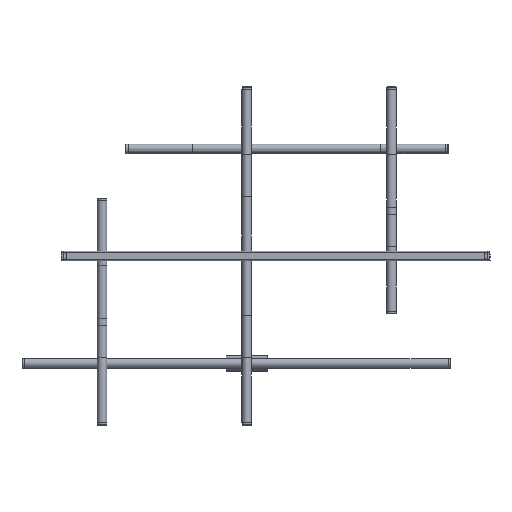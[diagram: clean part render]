
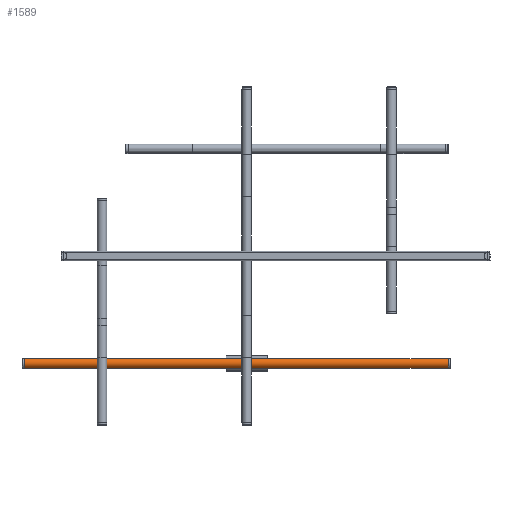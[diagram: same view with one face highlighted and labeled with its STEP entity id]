
A CAD part, top view. The second image highlights one B-rep face of the part: STEP entity #1589.
In plain terms, the highlighted free-form (B-spline) face has degree [1, 2] with [2, 5] control points.
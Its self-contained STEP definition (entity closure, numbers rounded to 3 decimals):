
#1589=ADVANCED_FACE('',(#3209),#23686,.T.);
#3209=FACE_OUTER_BOUND('',#4839,.T.);
#4839=EDGE_LOOP('',(#10895,#10896,#10897,#10898));
#10895=ORIENTED_EDGE('',*,*,#15528,.F.);
#10896=ORIENTED_EDGE('',*,*,#15527,.F.);
#10897=ORIENTED_EDGE('',*,*,#15526,.T.);
#10898=ORIENTED_EDGE('',*,*,#15501,.T.);
#15501=EDGE_CURVE('',#21766,#21767,#19794,.T.);
#15526=EDGE_CURVE('',#21784,#21766,#17948,.T.);
#15527=EDGE_CURVE('',#21784,#21785,#19807,.T.);
#15528=EDGE_CURVE('',#21785,#21767,#17949,.T.);
#17948=B_SPLINE_CURVE_WITH_KNOTS('',1,(#44535,#44536),.UNSPECIFIED.,.F.,
 .F.,(2,2),(-1023.816,0.),.UNSPECIFIED.);
#17949=B_SPLINE_CURVE_WITH_KNOTS('',1,(#44542,#44543),.UNSPECIFIED.,.F.,
 .F.,(2,2),(-1023.816,0.),.UNSPECIFIED.);
#19794=(
BOUNDED_CURVE()
B_SPLINE_CURVE(2,(#44464,#44465,#44466,#44467,#44468),.UNSPECIFIED.,.F.,
 .F.)
B_SPLINE_CURVE_WITH_KNOTS((3,2,3),(10.956,12.526,14.097),
 .UNSPECIFIED.)
CURVE()
GEOMETRIC_REPRESENTATION_ITEM()
RATIONAL_B_SPLINE_CURVE((1.,0.707,1.,0.707,1.))
REPRESENTATION_ITEM('')
);
#19807=(
BOUNDED_CURVE()
B_SPLINE_CURVE(2,(#44537,#44538,#44539,#44540,#44541),.UNSPECIFIED.,.F.,
 .F.)
B_SPLINE_CURVE_WITH_KNOTS((3,2,3),(10.956,12.526,14.097),
 .UNSPECIFIED.)
CURVE()
GEOMETRIC_REPRESENTATION_ITEM()
RATIONAL_B_SPLINE_CURVE((1.,0.707,1.,0.707,1.))
REPRESENTATION_ITEM('')
);
#21766=VERTEX_POINT('',#44413);
#21767=VERTEX_POINT('',#44414);
#21784=VERTEX_POINT('',#44431);
#21785=VERTEX_POINT('',#44432);
#23686=(
BOUNDED_SURFACE()
B_SPLINE_SURFACE(1,2,((#44347,#44348,#44349,#44350,#44351),(#44352,#44353,
#44354,#44355,#44356)),.UNSPECIFIED.,.F.,.F.,.F.)
B_SPLINE_SURFACE_WITH_KNOTS((2,2),(3,2,3),(0.,1023.816),(-14.097,
-12.526,-10.956),.UNSPECIFIED.)
GEOMETRIC_REPRESENTATION_ITEM()
RATIONAL_B_SPLINE_SURFACE(((1.,0.707,1.,0.707,1.),
(1.,0.707,1.,0.707,1.)))
REPRESENTATION_ITEM('')
SURFACE()
);
#44347=CARTESIAN_POINT('',(758.,-271.,-78.719));
#44348=CARTESIAN_POINT('',(758.,-271.,-67.219));
#44349=CARTESIAN_POINT('',(758.,-259.5,-67.219));
#44350=CARTESIAN_POINT('',(758.,-248.,-67.219));
#44351=CARTESIAN_POINT('',(758.,-248.,-78.719));
#44352=CARTESIAN_POINT('',(1781.816,-271.,-78.719));
#44353=CARTESIAN_POINT('',(1781.816,-271.,-67.219));
#44354=CARTESIAN_POINT('',(1781.816,-259.5,-67.219));
#44355=CARTESIAN_POINT('',(1781.816,-248.,-67.219));
#44356=CARTESIAN_POINT('',(1781.816,-248.,-78.719));
#44413=CARTESIAN_POINT('',(758.,-248.,-78.719));
#44414=CARTESIAN_POINT('',(758.,-271.,-78.719));
#44431=CARTESIAN_POINT('',(1781.816,-248.,-78.719));
#44432=CARTESIAN_POINT('',(1781.816,-271.,-78.719));
#44464=CARTESIAN_POINT('',(758.,-248.,-78.719));
#44465=CARTESIAN_POINT('',(758.,-248.,-67.219));
#44466=CARTESIAN_POINT('',(758.,-259.5,-67.219));
#44467=CARTESIAN_POINT('',(758.,-271.,-67.219));
#44468=CARTESIAN_POINT('',(758.,-271.,-78.719));
#44535=CARTESIAN_POINT('',(1781.816,-248.,-78.719));
#44536=CARTESIAN_POINT('',(758.,-248.,-78.719));
#44537=CARTESIAN_POINT('',(1781.816,-248.,-78.719));
#44538=CARTESIAN_POINT('',(1781.816,-248.,-67.219));
#44539=CARTESIAN_POINT('',(1781.816,-259.5,-67.219));
#44540=CARTESIAN_POINT('',(1781.816,-271.,-67.219));
#44541=CARTESIAN_POINT('',(1781.816,-271.,-78.719));
#44542=CARTESIAN_POINT('',(1781.816,-271.,-78.719));
#44543=CARTESIAN_POINT('',(758.,-271.,-78.719));
